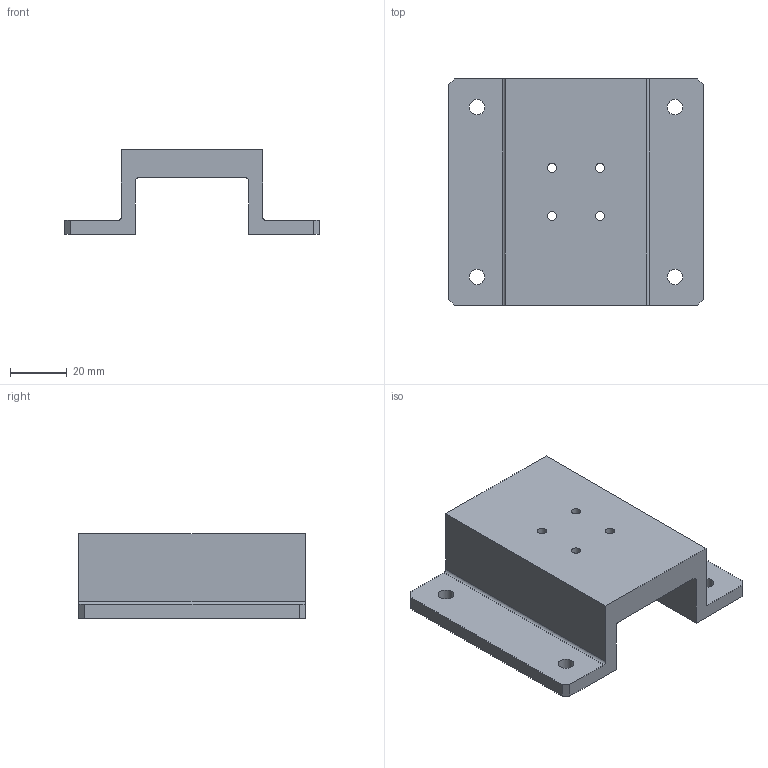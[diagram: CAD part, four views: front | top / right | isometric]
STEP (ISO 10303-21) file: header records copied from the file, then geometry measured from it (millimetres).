
FILE_DESCRIPTION(/* description */ (''),/* implementation_level */ '2;1');
FILE_NAME(/* name */ '加工槽连接板.stp',/* time_stamp */ '2026-09-15T21:14:49+08:00',/* author */ (''),/* organization */ (''),/* preprocessor_version */ 'ST-DEVELOPER v20',/* originating_system */ 'SIEMENS PLM Software NX2312.1700',/* authorisation */ '');
FILE_SCHEMA (('AUTOMOTIVE_DESIGN { 1 0 10303 214 3 1 1 1 }'));
Length unit declared in the file: millimetre
Products named in the file (1): 加工槽连接板
Bounding box: 90 x 80 x 30 mm (x, y, z)
Volume: 69821.9 mm3; surface area: 24945.5 mm2
Topology: 1 solids, 1 shells, 38 faces, 106 edges, 74 vertices
Faces by surface type: plane 22, cylinder 16
Full cylindrical faces by diameter (mm): 3.2 x4, 5.5 x4, 10 x4
Entity records: 1148 total; most frequent: DIRECTION 194, CARTESIAN_POINT 187, ORIENTED_EDGE 168, EDGE_CURVE 84, AXIS2_PLACEMENT_3D 71, EDGE_LOOP 70, VERTEX_POINT 64, FACE_BOUND 54
